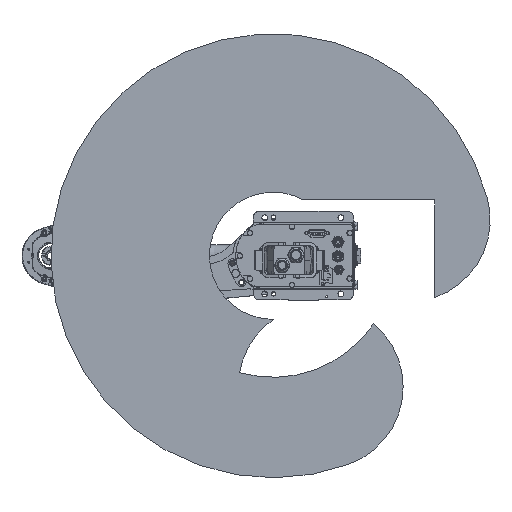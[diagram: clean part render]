
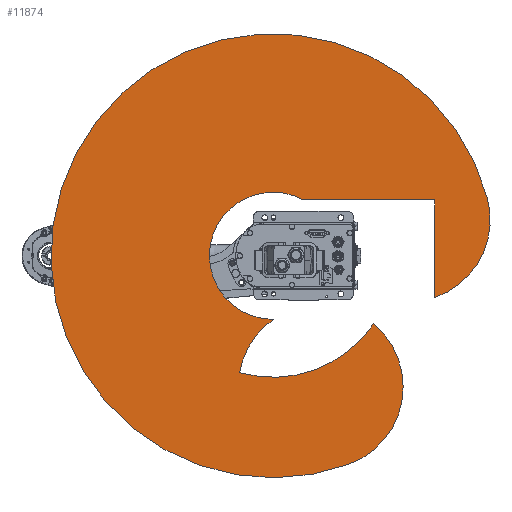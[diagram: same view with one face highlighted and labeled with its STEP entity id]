
A CAD part, front view. The second image highlights one B-rep face of the part: STEP entity #11874.
In plain terms, the highlighted planar face has unit normal (0, -1, 0).
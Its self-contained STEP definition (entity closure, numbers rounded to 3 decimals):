
#11874 = ADVANCED_FACE( '', ( #25139 ), #25140, .F. );
#25139 = FACE_OUTER_BOUND( '', #39969, .T. );
#25140 = PLANE( '', #39970 );
#39969 = EDGE_LOOP( '', ( #72928, #72929, #72930, #72931, #72932, #72933, #72934, #72935 ) );
#39970 = AXIS2_PLACEMENT_3D( '', #72936, #72937, #72938 );
#72928 = ORIENTED_EDGE( '', *, *, #84972, .T. );
#72929 = ORIENTED_EDGE( '', *, *, #81182, .F. );
#72930 = ORIENTED_EDGE( '', *, *, #85274, .F. );
#72931 = ORIENTED_EDGE( '', *, *, #83451, .F. );
#72932 = ORIENTED_EDGE( '', *, *, #86404, .T. );
#72933 = ORIENTED_EDGE( '', *, *, #73805, .T. );
#72934 = ORIENTED_EDGE( '', *, *, #83834, .T. );
#72935 = ORIENTED_EDGE( '', *, *, #78603, .T. );
#72936 = CARTESIAN_POINT( '', ( 103.366, 0., 37.622 ) );
#72937 = DIRECTION( '', ( 0., 1., 0. ) );
#72938 = DIRECTION( '', ( 0., 0., 1. ) );
#73805 = EDGE_CURVE( '', #86776, #86777, #86778, .T. );
#78603 = EDGE_CURVE( '', #95017, #95018, #95019, .T. );
#81182 = EDGE_CURVE( '', #98951, #98949, #98953, .T. );
#83451 = EDGE_CURVE( '', #102025, #102026, #102027, .T. );
#83834 = EDGE_CURVE( '', #86777, #95017, #102528, .T. );
#84972 = EDGE_CURVE( '', #95018, #98949, #103925, .T. );
#85274 = EDGE_CURVE( '', #102026, #98951, #104272, .T. );
#86404 = EDGE_CURVE( '', #102025, #86776, #105488, .T. );
#86776 = VERTEX_POINT( '', #106006 );
#86777 = VERTEX_POINT( '', #106007 );
#86778 = CIRCLE( '', #106008, 130. );
#95017 = VERTEX_POINT( '', #119688 );
#95018 = VERTEX_POINT( '', #119689 );
#95019 = LINE( '', #119690, #119691 );
#98949 = VERTEX_POINT( '', #126481 );
#98951 = VERTEX_POINT( '', #126484 );
#98953 = CIRCLE( '', #126487, 130. );
#102025 = VERTEX_POINT( '', #131566 );
#102026 = VERTEX_POINT( '', #131567 );
#102027 = CIRCLE( '', #131568, 130. );
#102528 = CIRCLE( '', #132456, 100.24 );
#103925 = LINE( '', #134536, #134537 );
#104272 = CIRCLE( '', #135129, 350. );
#105488 = CIRCLE( '', #136957, 191.57 );
#106006 = CARTESIAN_POINT( '', ( 184.156, 0., -52.78 ) );
#106007 = CARTESIAN_POINT( '', ( 100.238, 0., 0.687 ) );
#106008 = AXIS2_PLACEMENT_3D( '', #137238, #137239, #137240 );
#119688 = CARTESIAN_POINT( '', ( -88., 0., 48.001 ) );
#119689 = CARTESIAN_POINT( '', ( -88., 0., 255. ) );
#119690 = CARTESIAN_POINT( '', ( -88., 0., 48.001 ) );
#119691 = VECTOR( '', #142808, 1000. );
#126481 = CARTESIAN_POINT( '', ( 65.918, 0., 255. ) );
#126484 = CARTESIAN_POINT( '', ( -90.587, 0., 338.074 ) );
#126487 = AXIS2_PLACEMENT_3D( '', #145496, #145497, #145498 );
#131566 = CARTESIAN_POINT( '', ( 107.145, 0., 158.805 ) );
#131567 = CARTESIAN_POINT( '', ( 328.892, 0., 119.707 ) );
#131568 = AXIS2_PLACEMENT_3D( '', #147676, #147677, #147678 );
#132456 = AXIS2_PLACEMENT_3D( '', #148047, #148048, #148049 );
#134536 = CARTESIAN_POINT( '', ( -88., 0., 255. ) );
#134537 = VECTOR( '', #149060, 1000. );
#135129 = AXIS2_PLACEMENT_3D( '', #149246, #149247, #149248 );
#136957 = AXIS2_PLACEMENT_3D( '', #149771, #149772, #149773 );
#137238 = CARTESIAN_POINT( '', ( 206.732, 0., 75.244 ) );
#137239 = DIRECTION( '', ( 0., 1., 0. ) );
#137240 = DIRECTION( '', ( 1., 0., 0. ) );
#142808 = DIRECTION( '', ( 0., 0., 1. ) );
#145496 = CARTESIAN_POINT( '', ( -56.94, 0., 212.504 ) );
#145497 = DIRECTION( '', ( 0., 1., 0. ) );
#145498 = DIRECTION( '', ( 1., 0., 0. ) );
#147676 = CARTESIAN_POINT( '', ( 206.732, 0., 75.244 ) );
#147677 = DIRECTION( '', ( 0., 1., 0. ) );
#147678 = DIRECTION( '', ( 1., 0., 0. ) );
#148047 = CARTESIAN_POINT( '', ( 0., 0., 0. ) );
#148048 = DIRECTION( '', ( 0., 1., 0. ) );
#148049 = DIRECTION( '', ( 1., 0., 0. ) );
#149060 = DIRECTION( '', ( 1., 0., 0. ) );
#149246 = CARTESIAN_POINT( '', ( 0., 0., 0. ) );
#149247 = DIRECTION( '', ( 0., 1., 0. ) );
#149248 = DIRECTION( '', ( 1., 0., 0. ) );
#149771 = CARTESIAN_POINT( '', ( 0., 0., 0. ) );
#149772 = DIRECTION( '', ( 0., 1., 0. ) );
#149773 = DIRECTION( '', ( 1., 0., 0. ) );
